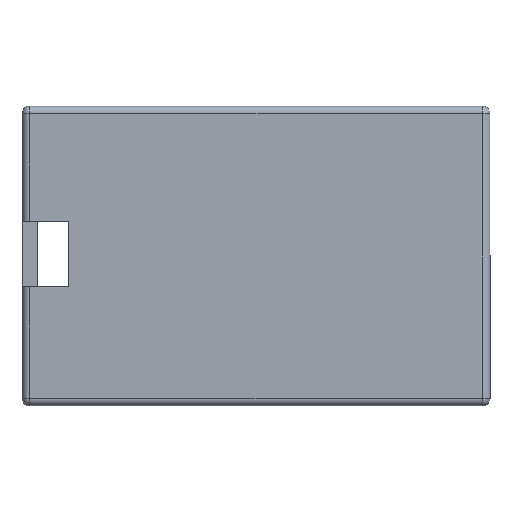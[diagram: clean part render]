
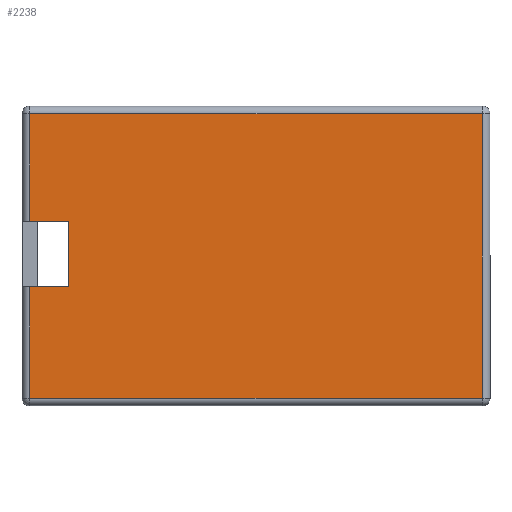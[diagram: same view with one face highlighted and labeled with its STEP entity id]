
A CAD part, front view. The second image highlights one B-rep face of the part: STEP entity #2238.
In plain terms, the highlighted planar face has unit normal (0, -1, 0).
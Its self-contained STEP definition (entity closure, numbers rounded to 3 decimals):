
#210=FACE_OUTER_BOUND('',#345,.T.);
#345=EDGE_LOOP('',(#1804,#1805,#1806,#1807,#1808,#1809,#1810,#1811));
#565=LINE('',#3593,#810);
#578=LINE('',#3626,#823);
#607=LINE('',#3701,#852);
#608=LINE('',#3706,#853);
#609=LINE('',#3707,#854);
#610=LINE('',#3709,#855);
#611=LINE('',#3711,#856);
#612=LINE('',#3712,#857);
#810=VECTOR('',#2840,10.);
#823=VECTOR('',#2869,10.);
#852=VECTOR('',#2930,10.);
#853=VECTOR('',#2937,10.);
#854=VECTOR('',#2938,10.);
#855=VECTOR('',#2939,10.);
#856=VECTOR('',#2940,10.);
#857=VECTOR('',#2941,10.);
#1061=VERTEX_POINT('',#3590);
#1062=VERTEX_POINT('',#3592);
#1073=VERTEX_POINT('',#3623);
#1074=VERTEX_POINT('',#3625);
#1104=VERTEX_POINT('',#3699);
#1105=VERTEX_POINT('',#3705);
#1106=VERTEX_POINT('',#3708);
#1107=VERTEX_POINT('',#3710);
#1312=EDGE_CURVE('',#1062,#1061,#565,.T.);
#1329=EDGE_CURVE('',#1073,#1074,#578,.T.);
#1368=EDGE_CURVE('',#1104,#1061,#607,.T.);
#1370=EDGE_CURVE('',#1105,#1073,#608,.T.);
#1371=EDGE_CURVE('',#1105,#1062,#609,.T.);
#1372=EDGE_CURVE('',#1106,#1104,#610,.T.);
#1373=EDGE_CURVE('',#1107,#1106,#611,.T.);
#1374=EDGE_CURVE('',#1074,#1107,#612,.T.);
#1804=ORIENTED_EDGE('',*,*,#1329,.F.);
#1805=ORIENTED_EDGE('',*,*,#1370,.F.);
#1806=ORIENTED_EDGE('',*,*,#1371,.T.);
#1807=ORIENTED_EDGE('',*,*,#1312,.T.);
#1808=ORIENTED_EDGE('',*,*,#1368,.F.);
#1809=ORIENTED_EDGE('',*,*,#1372,.F.);
#1810=ORIENTED_EDGE('',*,*,#1373,.F.);
#1811=ORIENTED_EDGE('',*,*,#1374,.F.);
#2137=PLANE('',#2427);
#2238=ADVANCED_FACE('',(#210),#2137,.F.);
#2427=AXIS2_PLACEMENT_3D('',#3704,#2935,#2936);
#2840=DIRECTION('',(-1.,0.,0.));
#2869=DIRECTION('',(0.,0.,1.));
#2930=DIRECTION('',(0.,0.,1.));
#2935=DIRECTION('center_axis',(0.,1.,0.));
#2936=DIRECTION('ref_axis',(1.,0.,0.));
#2937=DIRECTION('',(-1.,0.,0.));
#2938=DIRECTION('',(0.,0.,-1.));
#2939=DIRECTION('',(-1.,0.,0.));
#2940=DIRECTION('',(0.,0.,-1.));
#2941=DIRECTION('',(1.,0.,0.));
#3590=CARTESIAN_POINT('',(-114.2,-6.,181.5));
#3592=CARTESIAN_POINT('',(-106.5,-6.,181.5));
#3593=CARTESIAN_POINT('',(-112.2,-6.,181.5));
#3623=CARTESIAN_POINT('',(-114.2,-6.,194.5));
#3625=CARTESIAN_POINT('',(-114.2,-6.,215.95));
#3626=CARTESIAN_POINT('',(-114.2,-6.,172.9));
#3699=CARTESIAN_POINT('',(-114.2,-6.,159.3));
#3701=CARTESIAN_POINT('',(-114.2,-6.,172.9));
#3704=CARTESIAN_POINT('Origin',(-67.,-6.,188.));
#3705=CARTESIAN_POINT('',(-106.5,-6.,194.5));
#3706=CARTESIAN_POINT('',(-112.2,-6.,194.5));
#3707=CARTESIAN_POINT('',(-106.5,-6.,183.25));
#3708=CARTESIAN_POINT('',(-24.1,-6.,159.3));
#3709=CARTESIAN_POINT('',(-44.8,-6.,159.3));
#3710=CARTESIAN_POINT('',(-24.1,-6.,215.95));
#3711=CARTESIAN_POINT('',(-24.1,-6.,184.));
#3712=CARTESIAN_POINT('',(-46.,-6.,215.95));
